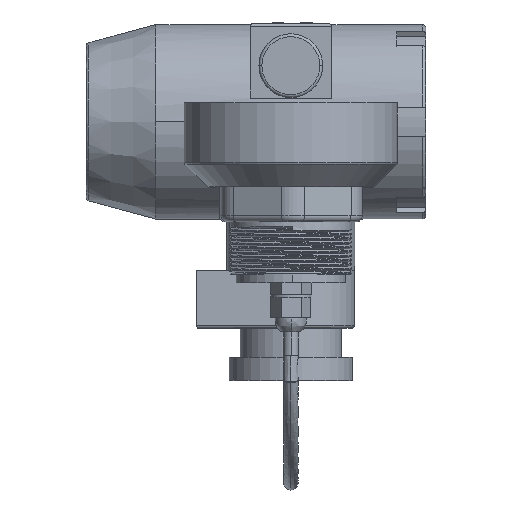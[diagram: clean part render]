
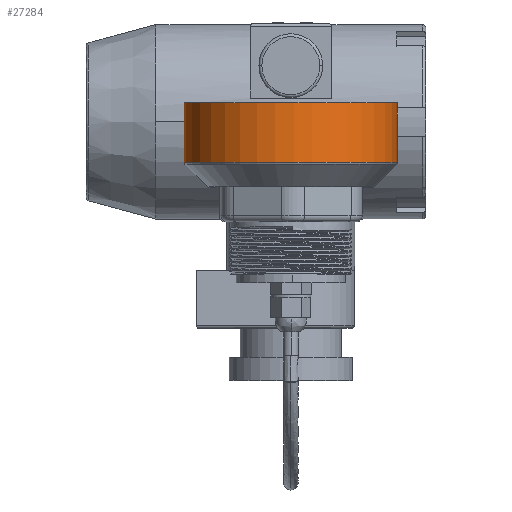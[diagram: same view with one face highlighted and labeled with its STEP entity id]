
A CAD part, top view. The second image highlights one B-rep face of the part: STEP entity #27284.
In plain terms, the highlighted cylindrical face has radius 36.75 mm (diameter 73.5 mm), a partial arc.
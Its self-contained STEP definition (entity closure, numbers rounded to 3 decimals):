
#25010=CARTESIAN_POINT('',(0.,0.,10.5));
#25011=DIRECTION('',(0.,0.,1.));
#25012=DIRECTION('',(-1.,0.,0.));
#25013=AXIS2_PLACEMENT_3D('',#25010,#25011,#25012);
#25020=DIRECTION('',(0.,0.,1.));
#25021=VECTOR('',#25020,20.577);
#25022=CARTESIAN_POINT('',(36.75,0.,-10.077));
#25023=LINE('',#25022,#25021);
#25034=CARTESIAN_POINT('',(0.,0.,-10.077));
#25035=DIRECTION('',(0.,0.,1.));
#25036=DIRECTION('',(-1.,0.,0.));
#25037=AXIS2_PLACEMENT_3D('',#25034,#25035,#25036);
#25039=DIRECTION('',(0.,0.,1.));
#25040=VECTOR('',#25039,20.577);
#25041=CARTESIAN_POINT('',(-36.75,0.,-10.077));
#25042=LINE('',#25041,#25040);
#27063=CARTESIAN_POINT('',(36.75,0.,10.5));
#27064=CARTESIAN_POINT('',(-36.75,0.,10.5));
#27065=VERTEX_POINT('',#27063);
#27066=VERTEX_POINT('',#27064);
#27143=CARTESIAN_POINT('',(-36.75,0.,-10.077));
#27144=CARTESIAN_POINT('',(36.75,0.,-10.077));
#27145=VERTEX_POINT('',#27143);
#27146=VERTEX_POINT('',#27144);
#27273=CARTESIAN_POINT('',(0.,0.,-10.5));
#27274=DIRECTION('',(0.,0.,1.));
#27275=DIRECTION('',(1.,0.,0.));
#27276=AXIS2_PLACEMENT_3D('',#27273,#27274,#27275);
#27277=CYLINDRICAL_SURFACE('',#27276,36.75);
#27278=ORIENTED_EDGE('',*,*,#27264,.F.);
#27279=ORIENTED_EDGE('',*,*,#27239,.T.);
#27280=ORIENTED_EDGE('',*,*,#27224,.T.);
#27281=ORIENTED_EDGE('',*,*,#27236,.F.);
#27282=EDGE_LOOP('',(#27278,#27279,#27280,#27281));
#27283=FACE_OUTER_BOUND('',#27282,.F.);
#27284=ADVANCED_FACE('',(#27283),#27277,.T.);
#25014=CIRCLE('',#25013,36.75);
#25038=CIRCLE('',#25037,36.75);
#27224=EDGE_CURVE('',#27066,#27065,#25014,.T.);
#27236=EDGE_CURVE('',#27146,#27065,#25023,.T.);
#27239=EDGE_CURVE('',#27145,#27066,#25042,.T.);
#27264=EDGE_CURVE('',#27145,#27146,#25038,.T.);
